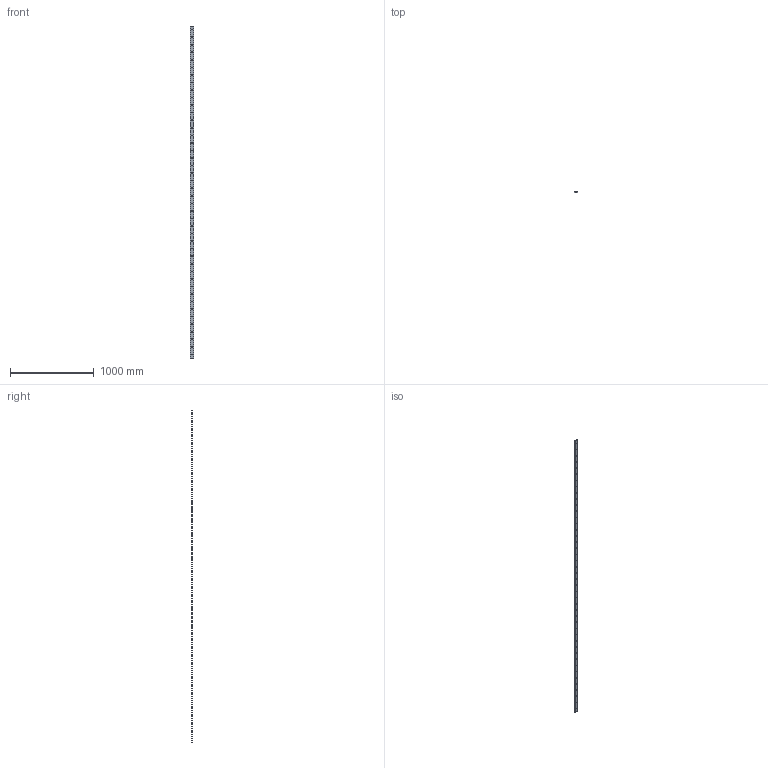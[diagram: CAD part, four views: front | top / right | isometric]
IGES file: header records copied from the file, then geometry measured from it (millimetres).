
Start section: 3D InterOp IGES (v. 2019 1.0.2), Spatial Corp. Copyright (c) 1999-2017.
Global section: file name: SS M44 3956.igs; native system: Spatial Corp.; preprocessor: 3D InterOp GENERIC/IGES 3.0; author: Noname; organization: Noname; date: 20220628.112213; units: millimetre
Bounding box: 43.68 x 6.1 x 3956 mm (x, y, z)
Surface area: 367131.7 mm2 (no closed solid volume)
Topology: 0 solids, 0 shells, 100 faces, 588 edges, 588 vertices
Faces by surface type: revolution 92, extrusion 8
